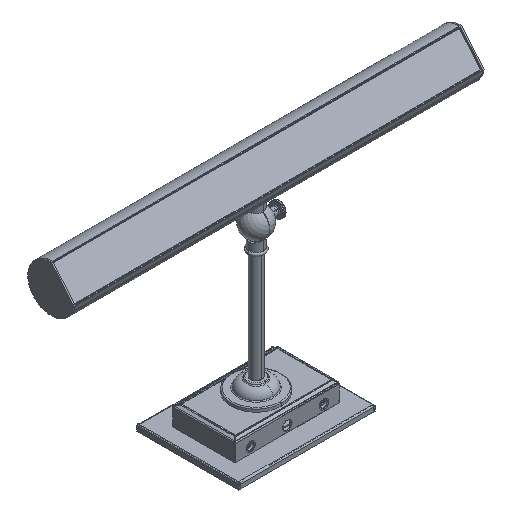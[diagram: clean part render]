
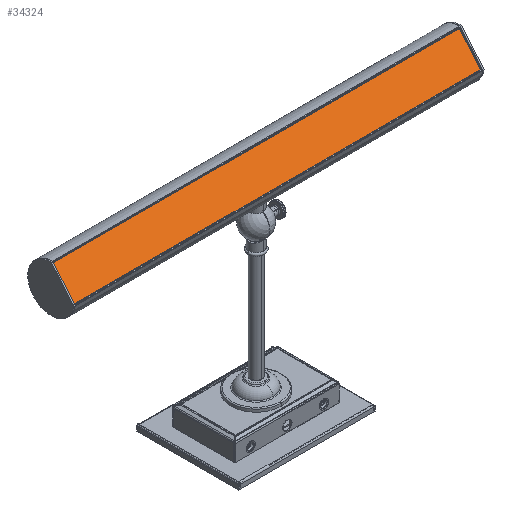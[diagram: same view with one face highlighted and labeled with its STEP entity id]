
A CAD part, isometric view. The second image highlights one B-rep face of the part: STEP entity #34324.
In plain terms, the highlighted planar face has unit normal (0, -0.766, 0.643) as drawn and (0, 1, 0) by its records, which use the part's own axes.
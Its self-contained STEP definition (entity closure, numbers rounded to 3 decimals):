
#34197=DIRECTION('',(0.,0.,1.));
#34198=VECTOR('',#34197,36.5);
#34199=CARTESIAN_POINT('',(-227.,1.5,-18.25));
#34200=LINE('',#34199,#34198);
#34204=DIRECTION('',(-1.,0.,0.));
#34205=VECTOR('',#34204,454.);
#34206=CARTESIAN_POINT('',(227.,1.5,-18.25));
#34207=LINE('',#34206,#34205);
#34211=DIRECTION('',(0.,0.,-1.));
#34212=VECTOR('',#34211,36.5);
#34213=CARTESIAN_POINT('',(227.,1.5,18.25));
#34214=LINE('',#34213,#34212);
#34218=DIRECTION('',(1.,0.,0.));
#34219=VECTOR('',#34218,454.);
#34220=CARTESIAN_POINT('',(-227.,1.5,18.25));
#34221=LINE('',#34220,#34219);
#34233=CARTESIAN_POINT('',(-227.,1.5,-18.25));
#34234=CARTESIAN_POINT('',(-227.,1.5,18.25));
#34235=VERTEX_POINT('',#34233);
#34236=VERTEX_POINT('',#34234);
#34237=CARTESIAN_POINT('',(227.,1.5,18.25));
#34238=VERTEX_POINT('',#34237);
#34239=CARTESIAN_POINT('',(227.,1.5,-18.25));
#34240=VERTEX_POINT('',#34239);
#34313=CARTESIAN_POINT('',(0.,1.5,0.));
#34314=DIRECTION('',(0.,1.,0.));
#34315=DIRECTION('',(1.,0.,0.));
#34316=AXIS2_PLACEMENT_3D('',#34313,#34314,#34315);
#34317=PLANE('',#34316);
#34318=ORIENTED_EDGE('',*,*,#34265,.F.);
#34319=ORIENTED_EDGE('',*,*,#34280,.F.);
#34320=ORIENTED_EDGE('',*,*,#34294,.F.);
#34321=ORIENTED_EDGE('',*,*,#34307,.F.);
#34322=EDGE_LOOP('',(#34318,#34319,#34320,#34321));
#34323=FACE_OUTER_BOUND('',#34322,.F.);
#34265=EDGE_CURVE('',#34235,#34236,#34200,.T.);
#34280=EDGE_CURVE('',#34240,#34235,#34207,.T.);
#34294=EDGE_CURVE('',#34238,#34240,#34214,.T.);
#34307=EDGE_CURVE('',#34236,#34238,#34221,.T.);
#34324=ADVANCED_FACE('',(#34323),#34317,.T.);
